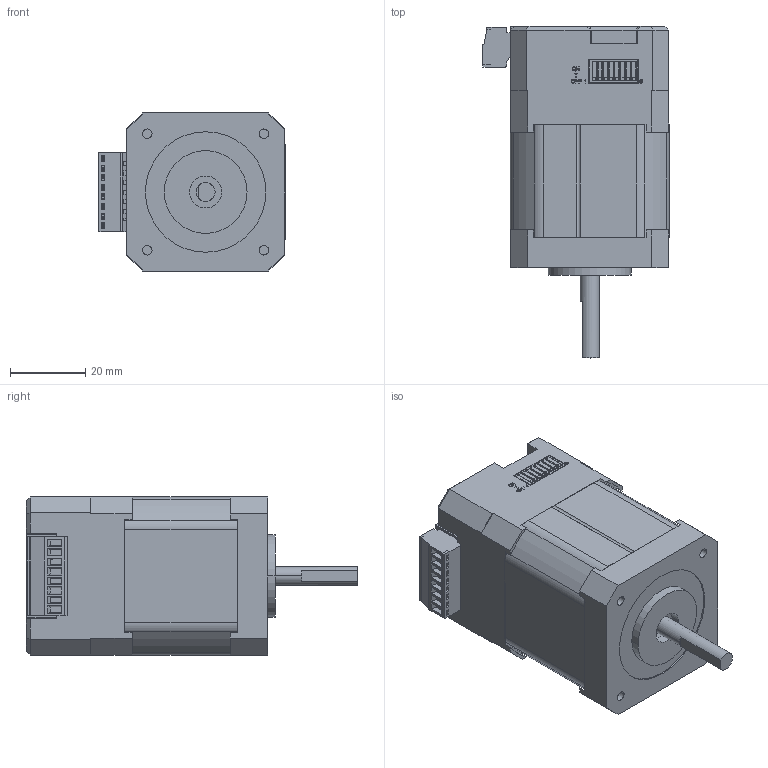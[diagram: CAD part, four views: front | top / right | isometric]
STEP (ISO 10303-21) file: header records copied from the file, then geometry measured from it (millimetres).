
FILE_DESCRIPTION((''),'2;1');
FILE_NAME('IT42AM06-D0524-24V-M','2024-08-10T09:23:12',('ruiwe'),(''),'CREO PARAMETRIC BY PTC INC, 2021063','CREO PARAMETRIC BY PTC INC, 2021063','');
FILE_SCHEMA(('CONFIG_CONTROL_DESIGN','SHAPE_APPEARANCE_LAYERS_GROUPS'));
Products named in the file (1): IT42AM06-D0524-24V-M
Bounding box: 49.45 x 88.2 x 42.2 mm (x, y, z)
Volume: 67900.2 mm3; surface area: 41515.3 mm2
Topology: 4 solids, 161 shells, 1947 faces, 6746 edges, 4989 vertices
Faces by surface type: plane 1370, cylinder 420, torus 56, bspline 38, cone 34, sphere 29
Entity records: 95980 total; most frequent: CARTESIAN_POINT 19774, ORIENTED_EDGE 11582, DIRECTION 10731, EDGE_CURVE 6746, VERTEX_POINT 4989, VECTOR 4955, LINE 4955, PRESENTATION_STYLE_ASSIGNMENT 3834
